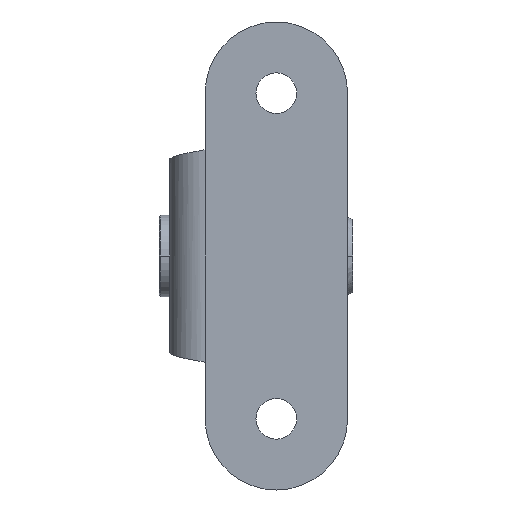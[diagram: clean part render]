
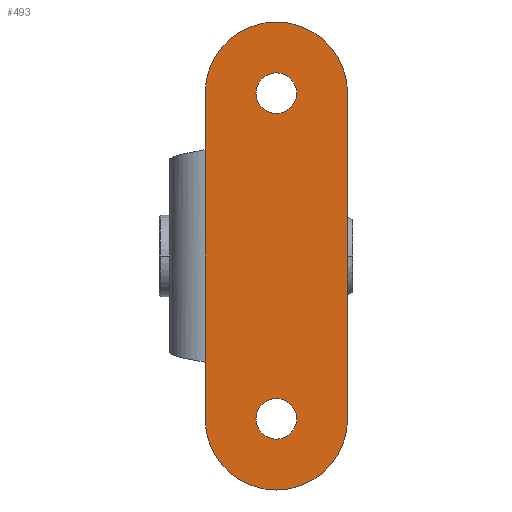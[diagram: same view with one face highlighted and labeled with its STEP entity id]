
A CAD part, front view. The second image highlights one B-rep face of the part: STEP entity #493.
In plain terms, the highlighted planar face has unit normal (0, -1, 0).
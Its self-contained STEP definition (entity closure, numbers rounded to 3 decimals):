
#43 = DIRECTION ( 'NONE',  ( 0., 0., 1. ) ) ;
#44 = CARTESIAN_POINT ( 'NONE',  ( 0., -2., 0. ) ) ;
#73 = CARTESIAN_POINT ( 'NONE',  ( 0., -2., -32. ) ) ;
#77 = VERTEX_POINT ( 'NONE', #1400 ) ;
#110 = VECTOR ( 'NONE', #1404, 1000. ) ;
#117 = EDGE_LOOP ( 'NONE', ( #169, #1491 ) ) ;
#142 = CIRCLE ( 'NONE', #1278, 2. ) ;
#144 = DIRECTION ( 'NONE',  ( 0., 1., 0. ) ) ;
#169 = ORIENTED_EDGE ( 'NONE', *, *, #227, .F. ) ;
#189 = LINE ( 'NONE', #1043, #970 ) ;
#195 = CARTESIAN_POINT ( 'NONE',  ( 0., -2., 0. ) ) ;
#200 = ORIENTED_EDGE ( 'NONE', *, *, #921, .F. ) ;
#211 = EDGE_LOOP ( 'NONE', ( #845, #200, #856, #319, #435, #1083, #455 ) ) ;
#212 = CIRCLE ( 'NONE', #683, 2. ) ;
#227 = EDGE_CURVE ( 'NONE', #953, #1059, #142, .T. ) ;
#268 = EDGE_CURVE ( 'NONE', #1059, #953, #1326, .T. ) ;
#269 = CARTESIAN_POINT ( 'NONE',  ( 0., -2., 0. ) ) ;
#275 = DIRECTION ( 'NONE',  ( 0., 1., 0. ) ) ;
#287 = DIRECTION ( 'NONE',  ( 0., -1., 0. ) ) ;
#288 = CARTESIAN_POINT ( 'NONE',  ( -7., -2., 0. ) ) ;
#309 = DIRECTION ( 'NONE',  ( 0., 1., 0. ) ) ;
#311 = DIRECTION ( 'NONE',  ( 0., 0., 1. ) ) ;
#319 = ORIENTED_EDGE ( 'NONE', *, *, #725, .F. ) ;
#329 = LINE ( 'NONE', #659, #110 ) ;
#340 = CIRCLE ( 'NONE', #1515, 7. ) ;
#373 = CARTESIAN_POINT ( 'NONE',  ( -7., -2., -32. ) ) ;
#385 = CARTESIAN_POINT ( 'NONE',  ( 7., -2., -32. ) ) ;
#388 = EDGE_LOOP ( 'NONE', ( #837, #561 ) ) ;
#413 = CARTESIAN_POINT ( 'NONE',  ( -7., -2., -26.441 ) ) ;
#435 = ORIENTED_EDGE ( 'NONE', *, *, #565, .F. ) ;
#448 = CARTESIAN_POINT ( 'NONE',  ( 0., -2., 2. ) ) ;
#455 = ORIENTED_EDGE ( 'NONE', *, *, #1105, .F. ) ;
#478 = LINE ( 'NONE', #288, #557 ) ;
#490 = EDGE_CURVE ( 'NONE', #1100, #752, #478, .T. ) ;
#493 = ADVANCED_FACE ( 'NONE', ( #1282, #1110, #747 ), #1160, .F. ) ;
#511 = DIRECTION ( 'NONE',  ( 0., 0., 1. ) ) ;
#531 = CARTESIAN_POINT ( 'NONE',  ( 0., -2., -34. ) ) ;
#537 = VERTEX_POINT ( 'NONE', #385 ) ;
#543 = AXIS2_PLACEMENT_3D ( 'NONE', #269, #144, #779 ) ;
#557 = VECTOR ( 'NONE', #645, 1000. ) ;
#561 = ORIENTED_EDGE ( 'NONE', *, *, #857, .F. ) ;
#565 = EDGE_CURVE ( 'NONE', #752, #77, #340, .T. ) ;
#573 = DIRECTION ( 'NONE',  ( 0., -1., 0. ) ) ;
#583 = CARTESIAN_POINT ( 'NONE',  ( 0., -2., -2. ) ) ;
#615 = DIRECTION ( 'NONE',  ( 0., -1., 0. ) ) ;
#620 = AXIS2_PLACEMENT_3D ( 'NONE', #44, #309, #1418 ) ;
#642 = EDGE_CURVE ( 'NONE', #1502, #537, #189, .T. ) ;
#645 = DIRECTION ( 'NONE',  ( 0., 0., 1. ) ) ;
#655 = CARTESIAN_POINT ( 'NONE',  ( -7., -2., -5.559 ) ) ;
#659 = CARTESIAN_POINT ( 'NONE',  ( -7., -2., 0. ) ) ;
#683 = AXIS2_PLACEMENT_3D ( 'NONE', #1464, #615, #1586 ) ;
#690 = VERTEX_POINT ( 'NONE', #413 ) ;
#725 = EDGE_CURVE ( 'NONE', #77, #1502, #929, .T. ) ;
#747 = FACE_OUTER_BOUND ( 'NONE', #211, .T. ) ;
#752 = VERTEX_POINT ( 'NONE', #1203 ) ;
#767 = CARTESIAN_POINT ( 'NONE',  ( -7., -2., 0. ) ) ;
#771 = CIRCLE ( 'NONE', #1483, 7. ) ;
#779 = DIRECTION ( 'NONE',  ( 0., 0., 1. ) ) ;
#833 = CARTESIAN_POINT ( 'NONE',  ( 0., -2., 0. ) ) ;
#835 = CARTESIAN_POINT ( 'NONE',  ( 0., -2., -30. ) ) ;
#837 = ORIENTED_EDGE ( 'NONE', *, *, #1206, .F. ) ;
#838 = CIRCLE ( 'NONE', #1188, 2. ) ;
#845 = ORIENTED_EDGE ( 'NONE', *, *, #1142, .F. ) ;
#856 = ORIENTED_EDGE ( 'NONE', *, *, #642, .F. ) ;
#857 = EDGE_CURVE ( 'NONE', #1403, #1066, #212, .T. ) ;
#913 = CARTESIAN_POINT ( 'NONE',  ( 0., -2., 0. ) ) ;
#921 = EDGE_CURVE ( 'NONE', #537, #1228, #771, .T. ) ;
#929 = CIRCLE ( 'NONE', #620, 7. ) ;
#945 = DIRECTION ( 'NONE',  ( 0., 0., 1. ) ) ;
#953 = VERTEX_POINT ( 'NONE', #448 ) ;
#970 = VECTOR ( 'NONE', #1556, 1000. ) ;
#1010 = DIRECTION ( 'NONE',  ( 0., -1., 0. ) ) ;
#1043 = CARTESIAN_POINT ( 'NONE',  ( 7., -2., 0. ) ) ;
#1059 = VERTEX_POINT ( 'NONE', #583 ) ;
#1066 = VERTEX_POINT ( 'NONE', #835 ) ;
#1073 = DIRECTION ( 'NONE',  ( 0., 1., 0. ) ) ;
#1083 = ORIENTED_EDGE ( 'NONE', *, *, #490, .F. ) ;
#1100 = VERTEX_POINT ( 'NONE', #655 ) ;
#1105 = EDGE_CURVE ( 'NONE', #690, #1100, #1306, .T. ) ;
#1110 = FACE_BOUND ( 'NONE', #117, .T. ) ;
#1127 = DIRECTION ( 'NONE',  ( 0., 0., 1. ) ) ;
#1142 = EDGE_CURVE ( 'NONE', #1228, #690, #329, .T. ) ;
#1160 = PLANE ( 'NONE',  #543 ) ;
#1188 = AXIS2_PLACEMENT_3D ( 'NONE', #1612, #1010, #1127 ) ;
#1203 = CARTESIAN_POINT ( 'NONE',  ( -7., -2., 0. ) ) ;
#1206 = EDGE_CURVE ( 'NONE', #1066, #1403, #838, .T. ) ;
#1228 = VERTEX_POINT ( 'NONE', #373 ) ;
#1278 = AXIS2_PLACEMENT_3D ( 'NONE', #195, #287, #311 ) ;
#1282 = FACE_BOUND ( 'NONE', #388, .T. ) ;
#1304 = CARTESIAN_POINT ( 'NONE',  ( 7., -2., 0. ) ) ;
#1306 = LINE ( 'NONE', #767, #1578 ) ;
#1326 = CIRCLE ( 'NONE', #1360, 2. ) ;
#1331 = DIRECTION ( 'NONE',  ( 0., 0., 1. ) ) ;
#1360 = AXIS2_PLACEMENT_3D ( 'NONE', #833, #573, #1331 ) ;
#1400 = CARTESIAN_POINT ( 'NONE',  ( 0., -2., 7. ) ) ;
#1403 = VERTEX_POINT ( 'NONE', #531 ) ;
#1404 = DIRECTION ( 'NONE',  ( 0., 0., 1. ) ) ;
#1418 = DIRECTION ( 'NONE',  ( 0., 0., 1. ) ) ;
#1464 = CARTESIAN_POINT ( 'NONE',  ( 0., -2., -32. ) ) ;
#1483 = AXIS2_PLACEMENT_3D ( 'NONE', #73, #1073, #945 ) ;
#1491 = ORIENTED_EDGE ( 'NONE', *, *, #268, .F. ) ;
#1502 = VERTEX_POINT ( 'NONE', #1304 ) ;
#1515 = AXIS2_PLACEMENT_3D ( 'NONE', #913, #275, #511 ) ;
#1556 = DIRECTION ( 'NONE',  ( 0., 0., -1. ) ) ;
#1578 = VECTOR ( 'NONE', #43, 1000. ) ;
#1586 = DIRECTION ( 'NONE',  ( 0., 0., 1. ) ) ;
#1612 = CARTESIAN_POINT ( 'NONE',  ( 0., -2., -32. ) ) ;
